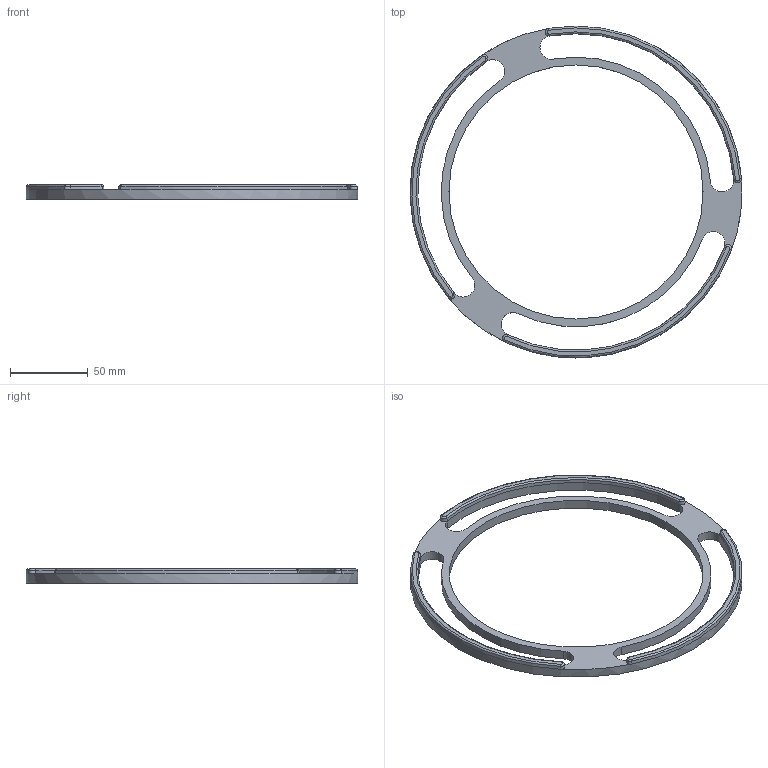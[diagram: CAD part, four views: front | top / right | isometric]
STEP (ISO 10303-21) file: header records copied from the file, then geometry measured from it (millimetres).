
FILE_DESCRIPTION(('FreeCAD Model'),'2;1');
FILE_NAME('Open CASCADE Shape Model','2026-05-18T22:28:19',('Author'),( ''),'Open CASCADE STEP processor 7.8','FreeCAD','Unknown');
FILE_SCHEMA(('AUTOMOTIVE_DESIGN { 1 0 10303 214 1 1 1 1 }'));
Length unit declared in the file: millimetre
Products named in the file (1): Ring
Bounding box: 213 x 213 x 9 mm (x, y, z)
Volume: 50576.7 mm3; surface area: 30542.8 mm2
Topology: 1 solids, 1 shells, 43 faces, 102 edges, 58 vertices
Faces by surface type: cylinder 14, cone 12, torus 12, plane 5
Full cylindrical faces by diameter (mm): 163 x1, 213 x1
Entity records: 2586 total; most frequent: CARTESIAN_POINT 465, DIRECTION 428, ORIENTED_EDGE 204, PCURVE 204, DEFINITIONAL_REPRESENTATION 204, LINE 145, VECTOR 145, AXIS2_PLACEMENT_3D 120
